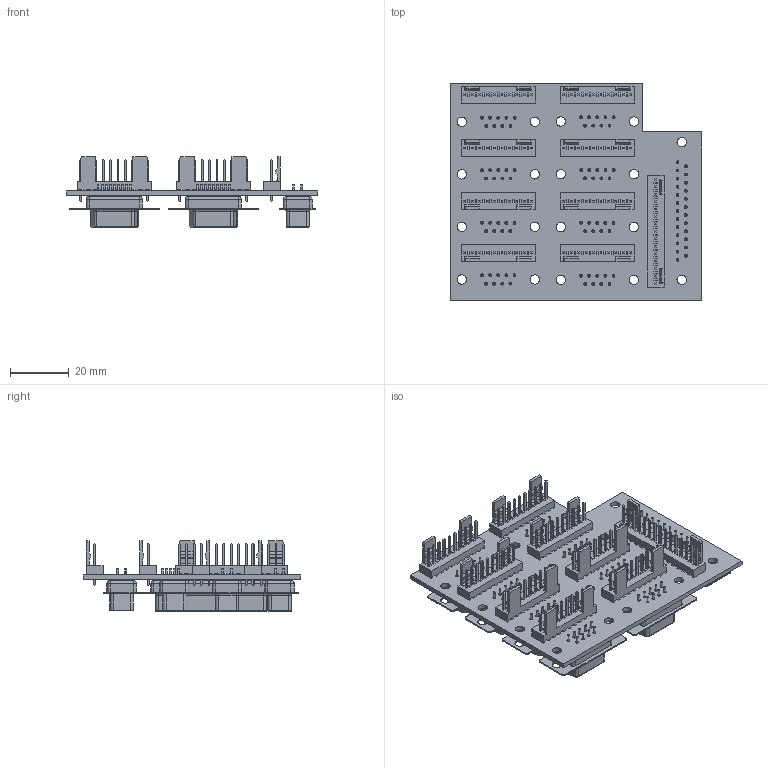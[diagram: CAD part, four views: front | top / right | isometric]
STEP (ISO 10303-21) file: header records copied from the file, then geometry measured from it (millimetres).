
FILE_DESCRIPTION(('KiCad electronic assembly'),'2;1');
FILE_NAME('Serial_DB9.step','2023-10-07T22:17:28',('Pcbnew'),('Kicad'), 'Open CASCADE STEP processor 7.6','KiCad to STEP converter','Unknown' );
FILE_SCHEMA(('AUTOMOTIVE_DESIGN { 1 0 10303 214 1 1 1 1 }'));
Length unit declared in the file: millimetre
Products named in the file (12): Serial_DB9 1; Molex_KK-254_AE-6410-10A_1x10_P2.54mm_Vertical; SOLID; Molex_KK-254_AE-6410-15A_1x15_P2.54mm_Vertical; DSUB-9_Male_Vertical_P2.77x2.84mm_MountingHoles; DSUB-9_Female_Vertical_P2.77x2.84mm_MountingHoles; DSUB-25_Female_Vertical_P2.77x2.84mm_MountingHoles; Serial_DB9 PCB
Assembly tree (24 placements, depth 3):
  Serial_DB9 1
    Molex_KK-254_AE-6410-10A_1x10_P2.54mm_Vertical  x8
      SOLID
    Molex_KK-254_AE-6410-15A_1x15_P2.54mm_Vertical
      SOLID
    DSUB-9_Male_Vertical_P2.77x2.84mm_MountingHoles  x4
      SOLID
    DSUB-9_Female_Vertical_P2.77x2.84mm_MountingHoles  x4
      SOLID
    DSUB-25_Female_Vertical_P2.77x2.84mm_MountingHoles
      SOLID
    Serial_DB9 PCB
Bounding box: 86.08 x 74.32 x 24.2 mm (x, y, z)
Volume: 29415.7 mm3; surface area: 40623.5 mm2
Topology: 19 solids, 23 shells, 4333 faces, 10396 edges, 6442 vertices
Faces by surface type: plane 3119, cylinder 784, torus 261, cone 117, sphere 36, revolution 16
Full cylindrical faces by diameter (mm): 0.64 x169, 0.853 x61, 1 x97, 1.19 x95, 3.2 x36
Entity records: 98454 total; most frequent: CARTESIAN_POINT 15467, DIRECTION 14405, LINE 8698, VECTOR 8698, ORIENTED_EDGE 7014, PCURVE 7014, DEFINITIONAL_REPRESENTATION 7014, EDGE_CURVE 3507
